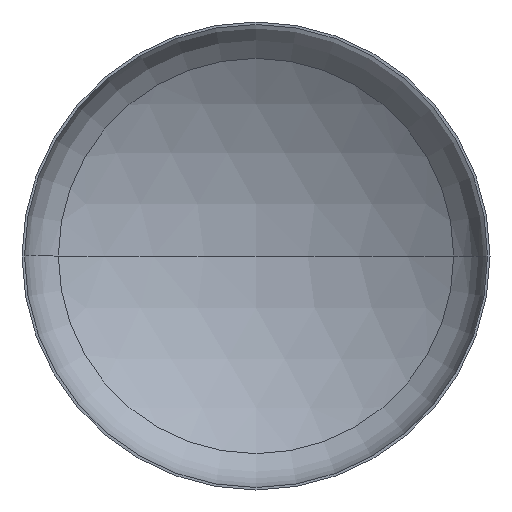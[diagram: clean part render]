
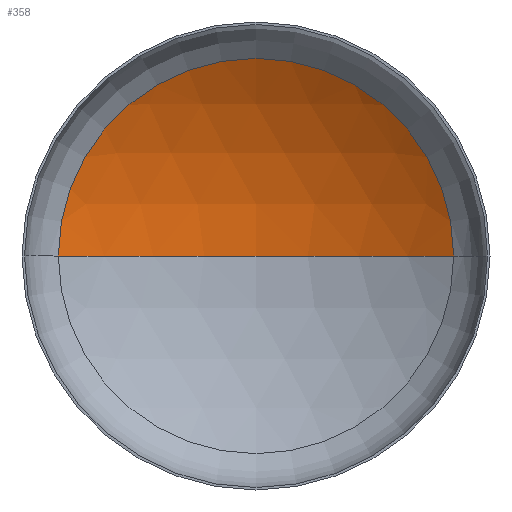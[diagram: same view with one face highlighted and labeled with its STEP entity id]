
A CAD part, front view. The second image highlights one B-rep face of the part: STEP entity #358.
In plain terms, the highlighted spherical face has radius 2400 mm.
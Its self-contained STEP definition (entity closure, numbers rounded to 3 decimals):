
#6 = EDGE_LOOP ( 'NONE', ( #23, #16, #101 ) ) ;
#16 = ORIENTED_EDGE ( 'NONE', *, *, #203, .T. ) ;
#20 = VERTEX_POINT ( 'NONE', #263 ) ;
#21 = AXIS2_PLACEMENT_3D ( 'NONE', #194, #268, #377 ) ;
#23 = ORIENTED_EDGE ( 'NONE', *, *, #205, .F. ) ;
#24 = DIRECTION ( 'NONE',  ( 1., 0., 0. ) ) ;
#33 = DIRECTION ( 'NONE',  ( -1., 0., 0. ) ) ;
#71 = VERTEX_POINT ( 'NONE', #244 ) ;
#101 = ORIENTED_EDGE ( 'NONE', *, *, #201, .T. ) ;
#127 = AXIS2_PLACEMENT_3D ( 'NONE', #308, #156, #24 ) ;
#132 = AXIS2_PLACEMENT_3D ( 'NONE', #284, #348, #33 ) ;
#134 = AXIS2_PLACEMENT_3D ( 'NONE', #206, #192, #354 ) ;
#151 = CARTESIAN_POINT ( 'NONE',  ( 1266.804, 445.7, 0. ) ) ;
#156 = DIRECTION ( 'NONE',  ( 0., 0., 1. ) ) ;
#163 = SPHERICAL_SURFACE ( 'NONE', #21, 2400. ) ;
#192 = DIRECTION ( 'NONE',  ( 0., -1., 0. ) ) ;
#194 = CARTESIAN_POINT ( 'NONE',  ( 0., -1592.733, 0. ) ) ;
#201 = EDGE_CURVE ( 'NONE', #295, #20, #394, .T. ) ;
#203 = EDGE_CURVE ( 'NONE', #71, #295, #215, .T. ) ;
#205 = EDGE_CURVE ( 'NONE', #71, #20, #388, .T. ) ;
#206 = CARTESIAN_POINT ( 'NONE',  ( 0., 445.7, 0. ) ) ;
#215 = CIRCLE ( 'NONE', #132, 2400. ) ;
#244 = CARTESIAN_POINT ( 'NONE',  ( 0., 807.267, 0. ) ) ;
#248 = FACE_OUTER_BOUND ( 'NONE', #6, .T. ) ;
#263 = CARTESIAN_POINT ( 'NONE',  ( -1266.804, 445.7, 0. ) ) ;
#268 = DIRECTION ( 'NONE',  ( 0., 0., -1. ) ) ;
#284 = CARTESIAN_POINT ( 'NONE',  ( 0., -1592.733, 0. ) ) ;
#295 = VERTEX_POINT ( 'NONE', #151 ) ;
#308 = CARTESIAN_POINT ( 'NONE',  ( 0., -1592.733, 0. ) ) ;
#348 = DIRECTION ( 'NONE',  ( 0., 0., -1. ) ) ;
#354 = DIRECTION ( 'NONE',  ( 1., 0., 0. ) ) ;
#358 = ADVANCED_FACE ( 'NONE', ( #248 ), #163, .F. ) ;
#377 = DIRECTION ( 'NONE',  ( -1., 0., 0. ) ) ;
#388 = CIRCLE ( 'NONE', #127, 2400. ) ;
#394 = CIRCLE ( 'NONE', #134, 1266.804 ) ;
